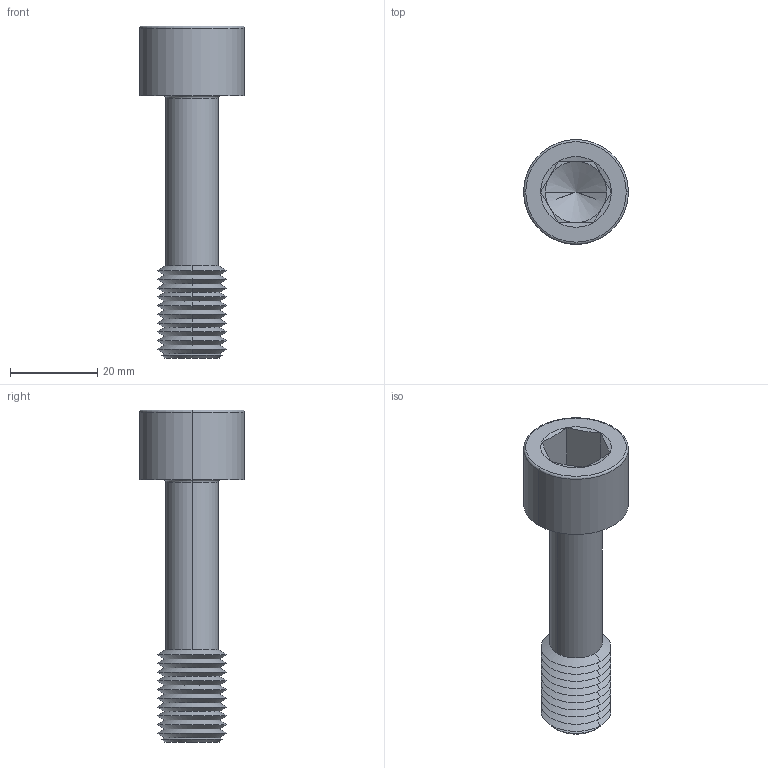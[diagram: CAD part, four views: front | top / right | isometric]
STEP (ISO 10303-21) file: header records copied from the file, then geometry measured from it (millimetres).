
FILE_DESCRIPTION (( 'STEP AP203' ), '1' );
FILE_NAME ('P0154.160-060-BL.step', '2024-06-17T11:39:02', ( '' ), ( '' ), 'SwSTEP 2.0', 'SolidWorks 2019', '' );
FILE_SCHEMA (( 'CONFIG_CONTROL_DESIGN' ));
Length unit declared in the file: millimetre
Products named in the file (1): P0154.160-060-BL
Bounding box: 24 x 24 x 76 mm (x, y, z)
Volume: 12410 mm3; surface area: 6129.4 mm2
Topology: 1 solids, 1 shells, 75 faces, 152 edges, 79 vertices
Faces by surface type: cone 52, plane 15, torus 4, cylinder 4
Entity records: 1991 total; most frequent: DIRECTION 372, CARTESIAN_POINT 335, ORIENTED_EDGE 300, AXIS2_PLACEMENT_3D 152, EDGE_CURVE 150, VERTEX_POINT 79, EDGE_LOOP 77, CIRCLE 76
